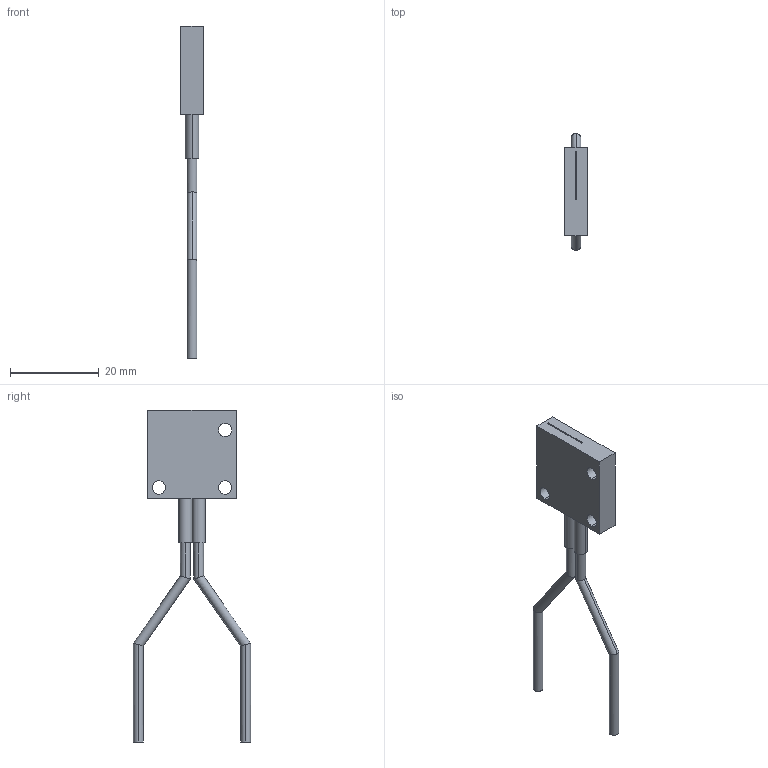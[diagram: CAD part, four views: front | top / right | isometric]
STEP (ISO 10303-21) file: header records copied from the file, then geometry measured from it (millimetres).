
FILE_DESCRIPTION (( 'STEP AP203' ), '1' );
FILE_NAME ('FD-AFM2.STEP', '2005-09-04T09:15:50', ( '川島良英' ), ( ' ' ), 'SwSTEP 2.0', 'SolidWorks 2004251', '' );
FILE_SCHEMA (( 'CONFIG_CONTROL_DESIGN' ));
Length unit declared in the file: millimetre
Products named in the file (1): FD-AFM2
Bounding box: 5 x 26.46 x 75 mm (x, y, z)
Volume: 2402.6 mm3; surface area: 2158 mm2
Topology: 1 solids, 1 shells, 37 faces, 90 edges, 60 vertices
Faces by surface type: cylinder 22, plane 15
Entity records: 1181 total; most frequent: CARTESIAN_POINT 236, ORIENTED_EDGE 180, DIRECTION 178, EDGE_CURVE 90, AXIS2_PLACEMENT_3D 66, VERTEX_POINT 60, EDGE_LOOP 48, LINE 46
